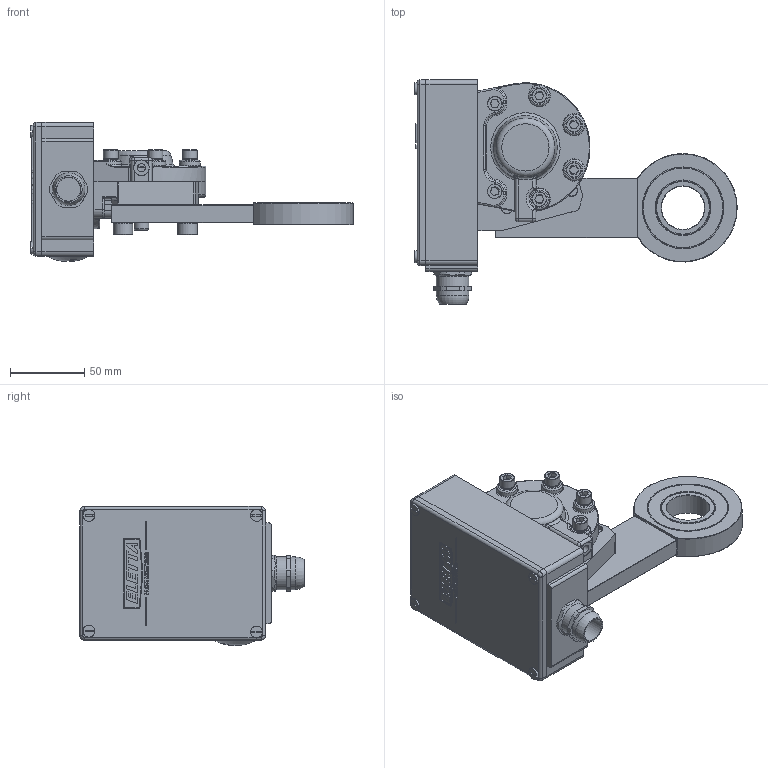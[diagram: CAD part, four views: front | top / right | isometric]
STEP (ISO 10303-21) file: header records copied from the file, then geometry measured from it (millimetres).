
FILE_DESCRIPTION(/* description */ ('Alibre Inc.'),/* implementation_level */ '2;1');
FILE_NAME(/* name */ 'export0',/* time_stamp */ '2012-10-19T13:16:30+02:00',/* author */ (''),/* organization */ (''),/* preprocessor_version */ 'ST-DEVELOPER v14',/* originating_system */ 'Alibre',/* authorisation */ '');
FILE_SCHEMA (('CONFIG_CONTROL_DESIGN'));
Length unit declared in the file: centimetre
Products named in the file (12): ID_1; ID_2; ID_3; ID_4; ID_5; ID_6; ID_7; ID_8; ID_9
Bounding box: 217.12 x 151 x 93.66 mm (x, y, z)
Volume: 362761.7 mm3; surface area: 163544.6 mm2
Topology: 21 solids, 21 shells, 1085 faces, 2568 edges, 1593 vertices
Faces by surface type: plane 538, cylinder 231, bspline 162, cone 76, torus 70, sphere 8
Full cylindrical faces by diameter (mm): 3.9 x2, 5 x22, 5.5 x1, 5.541 x2, 6 x14, 6.038 x2, 6.5 x6, 8 x9, 8.5 x2, 9.6 x6, 10 x11, 10.5 x1, 12 x3, 13 x2, 14 x3, 16 x1, 17.966 x1, 19.5 x1, 22 x2, 22.5 x4, 29 x2, 31 x1, 36 x2, 37 x2, 54 x2, 55 x2
Entity records: 34338 total; most frequent: CARTESIAN_POINT 14030, ORIENTED_EDGE 3988, DIRECTION 3168, EDGE_CURVE 1994, VERTEX_POINT 1333, AXIS2_PLACEMENT_3D 1279, EDGE_LOOP 1159, FACE_BOUND 1159
